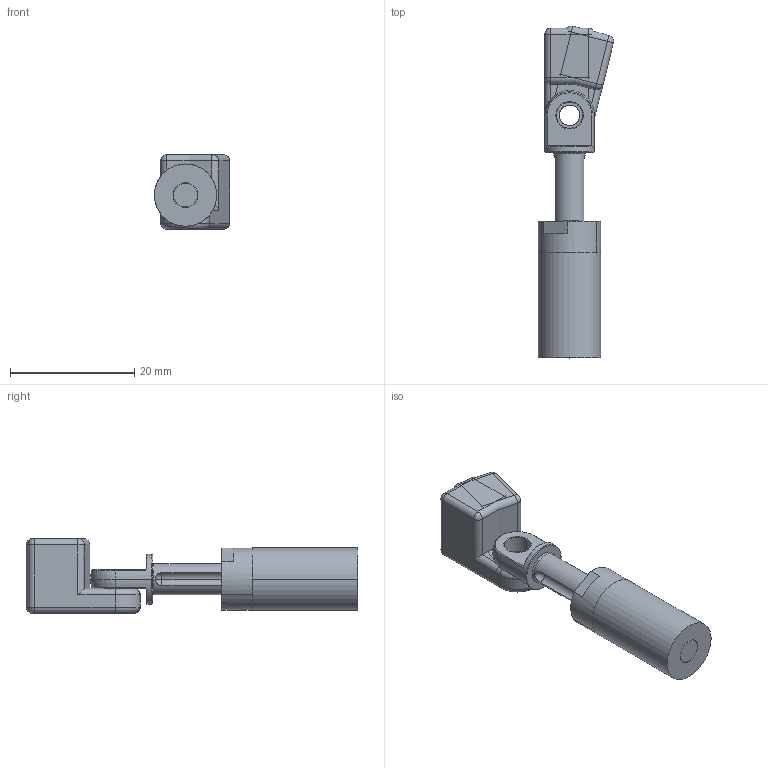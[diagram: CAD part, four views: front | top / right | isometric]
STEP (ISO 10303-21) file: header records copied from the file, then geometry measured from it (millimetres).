
FILE_DESCRIPTION (( 'STEP AP214' ), '1' );
FILE_NAME ('VFE1011-M5.STEP', '2019-11-15T06:50:25', ( '微软用户' ), ( '微软中国' ), 'SwSTEP 2.0', 'SolidWorks 2016', '' );
FILE_SCHEMA (( 'AUTOMOTIVE_DESIGN' ));
Length unit declared in the file: millimetre
Products named in the file (1): VFE1011-M5
Bounding box: 12.08 x 53.34 x 12 mm (x, y, z)
Volume: 3806.1 mm3; surface area: 4042.9 mm2
Topology: 5 solids, 6 shells, 231 faces, 540 edges, 304 vertices
Faces by surface type: cylinder 90, cone 63, plane 40, sphere 22, torus 12, bspline 4
Entity records: 9229 total; most frequent: CARTESIAN_POINT 1456, DIRECTION 1137, ORIENTED_EDGE 1048, EDGE_CURVE 524, AXIS2_PLACEMENT_3D 467, VERTEX_POINT 304, EDGE_LOOP 250, CIRCLE 239
